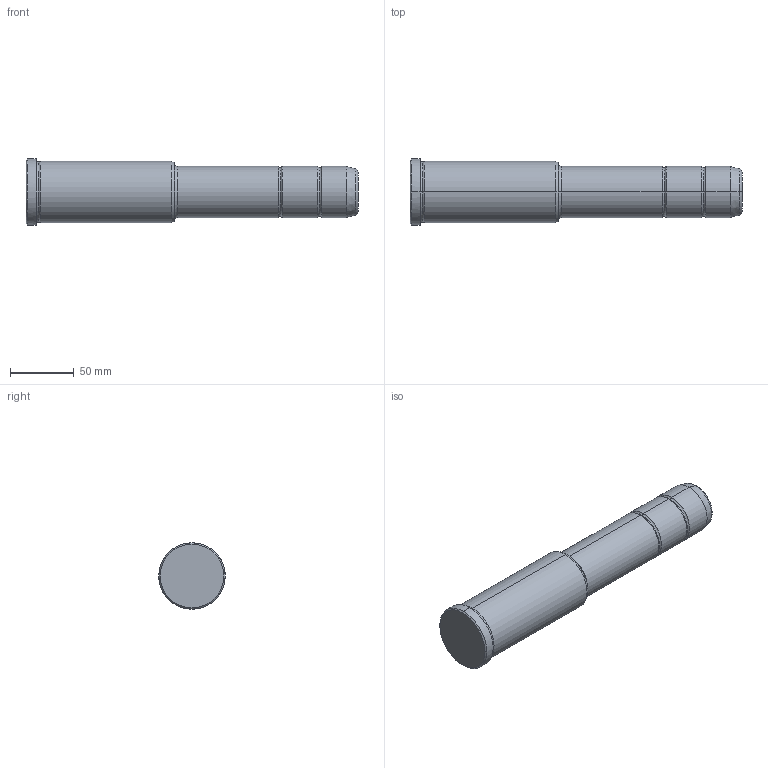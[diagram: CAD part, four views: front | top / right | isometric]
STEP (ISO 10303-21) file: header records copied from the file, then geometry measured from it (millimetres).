
FILE_DESCRIPTION(('CATIA V5 STEP Exchange'),'2;1');
FILE_NAME('C:\Users\Utente\Desktop\IO LAVORO\3D X SITO CF\X SITO\PLASTICA\351\351-40X116X260.stp','2021-10-07T13:13:27+00:00',('none'),('none'),'CATIA Version 5 Release 20 GA (IN-10)','CATIA V5 STEP AP203','none');
FILE_SCHEMA(('CONFIG_CONTROL_DESIGN'));
Length unit declared in the file: millimetre
Products named in the file (1): 351-40X116X260
Bounding box: 260 x 52 x 52 mm (x, y, z)
Volume: 391193.8 mm3; surface area: 39383.8 mm2
Topology: 1 solids, 1 shells, 36 faces, 102 edges, 70 vertices
Faces by surface type: torus 16, cylinder 10, cone 6, plane 4
Entity records: 1292 total; most frequent: CARTESIAN_POINT 321, ORIENTED_EDGE 204, DIRECTION 166, AXIS2_PLACEMENT_3D 115, EDGE_CURVE 102, CIRCLE 78, VERTEX_POINT 70, EDGE_LOOP 38
